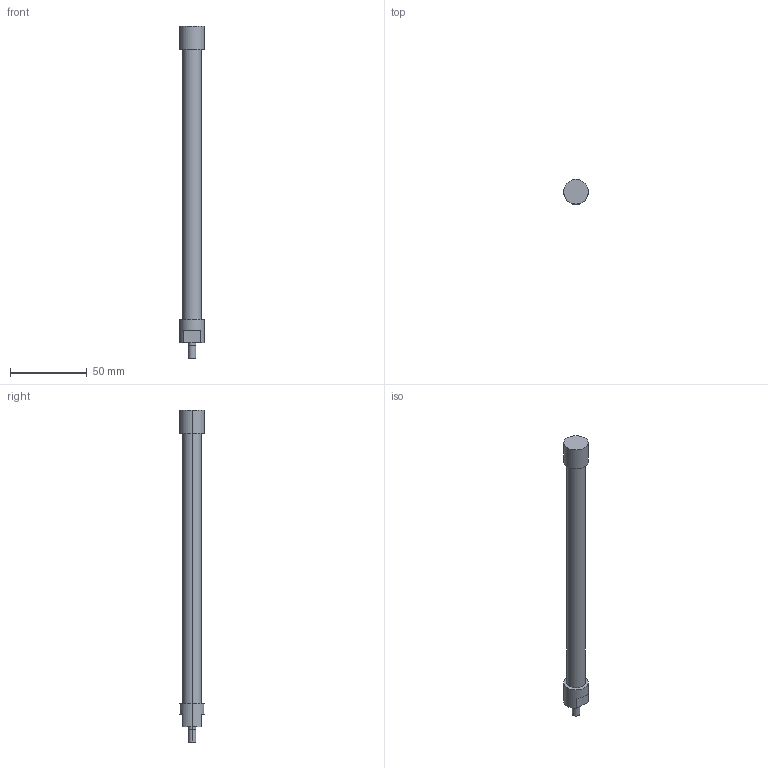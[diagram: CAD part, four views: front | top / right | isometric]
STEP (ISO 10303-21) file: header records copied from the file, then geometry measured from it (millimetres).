
FILE_DESCRIPTION(('STEP AP214'),'1');
FILE_NAME('ETT-R025M215.stp','2015-02-04T08:06:52',(' '),(' '),'Spatial InterOp 3D',' ',' ');
FILE_SCHEMA(('automotive_design'));
Length unit declared in the file: metre
Products named in the file (2): 1; 2
Bounding box: 16 x 16 x 216 mm (x, y, z)
Volume: 9175.4 mm3; surface area: 15244.7 mm2
Topology: 1 solids, 5 shells, 24 faces, 56 edges, 42 vertices
Faces by surface type: cylinder 12, plane 12
Entity records: 952 total; most frequent: DIRECTION 142, CARTESIAN_POINT 124, ORIENTED_EDGE 100, AXIS2_PLACEMENT_3D 60, EDGE_CURVE 56, VERTEX_POINT 42, CIRCLE 34, EDGE_LOOP 28
